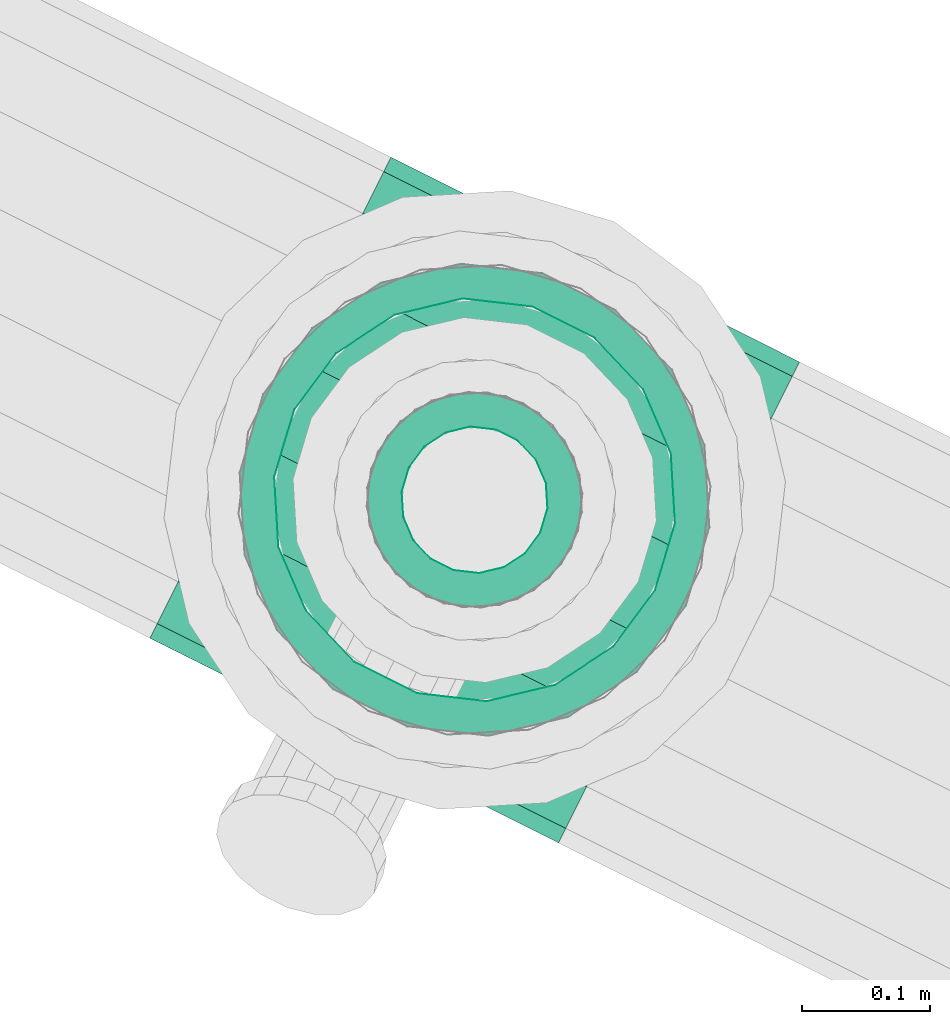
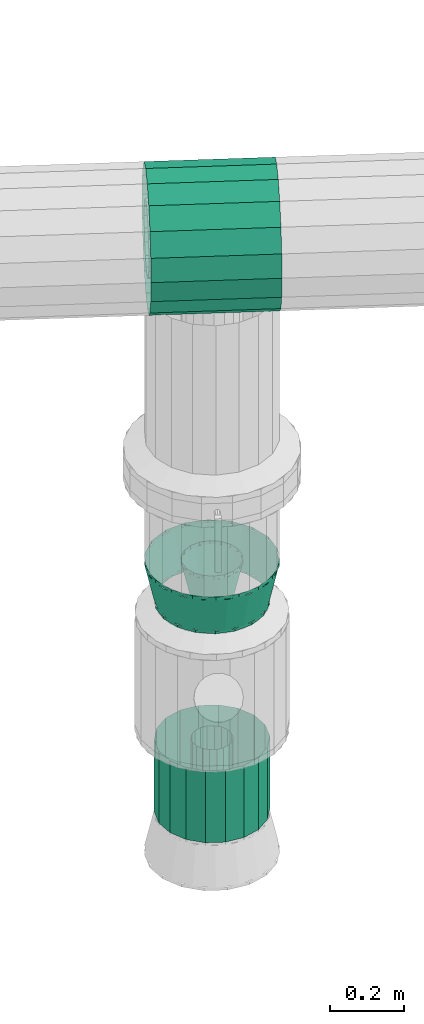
# One storey, part 59 of 152: 2 flow fittings, 1 flow segment.
"""IFC2X3 building model written with IfcOpenShell, lengths in metres."""

import ifcopenshell
import ifcopenshell.guid

model = None  # the IFC model being written
_history = None  # IfcOwnerHistory: only IFC2X3 demands one
_inside = {}  # id of a spatial element -> (the spatial element, [elements in it])
_under = {}  # id of a project, library or spatial element -> (it, [spatial elements below it])
_declared = {}  # id of a project -> (the project, [libraries it declares])
_typed = {}  # id of a type object -> (the type object, [elements of that type])
_made_of = {}  # id of a material, layer set ... -> (it, [elements and type objects made of it])


def new_model(schema):
    """Start an empty IFC model of exactly this schema.

    Asked for "IFC4X3", IfcOpenShell would pick the latest addendum, in which some entities
    have other attributes; the version numbers below select the first issue.
    IFC2X3 requires an IfcOwnerHistory on every rooted entity: one is made here for all.
    """
    global model, _history
    if schema == "IFC4X3":
        model = ifcopenshell.file(schema_version=(4, 3, 0, 0))
    else:
        model = ifcopenshell.file(schema=schema)
    _inside.clear()
    _under.clear()
    _declared.clear()
    _typed.clear()
    _made_of.clear()
    _history = None
    if model.schema == "IFC2X3":
        org = make("IfcOrganization", Name="unknown")
        user = make(
            "IfcPersonAndOrganization",
            ThePerson=make("IfcPerson", FamilyName="unknown"),
            TheOrganization=org,
        )
        app = make(
            "IfcApplication",
            ApplicationDeveloper=org,
            Version="unknown",
            ApplicationFullName="unknown",
            ApplicationIdentifier="unknown",
        )
        _history = make(
            "IfcOwnerHistory",
            OwningUser=user,
            OwningApplication=app,
            ChangeAction="ADDED",
            CreationDate=0,
        )
    return model


def make(cls, **values):
    """One entity of the class cls with the attributes given. An attribute that is None is left unset."""
    return model.create_entity(
        cls, **{name: value for name, value in values.items() if value is not None}
    )


def rooted(cls, **values):
    """An entity with a GlobalId (a new one), such as an element, a storey or a relation."""
    return make(cls, GlobalId=ifcopenshell.guid.new(), OwnerHistory=_history, **values)


def si_unit(unit_type, name, prefix=None):
    """IfcSIUnit, for example si_unit("LENGTHUNIT", "METRE", prefix="MILLI")."""
    return make("IfcSIUnit", UnitType=unit_type, Prefix=prefix, Name=name)


def derived_unit(unit_type, elements):
    """IfcDerivedUnit: a product of units, each with its exponent."""
    return make(
        "IfcDerivedUnit",
        Elements=[
            make("IfcDerivedUnitElement", Unit=unit, Exponent=power)
            for unit, power in elements
        ],
        UnitType=unit_type,
    )


def assignment(units):
    """IfcUnitAssignment: the units of a project."""
    return None if units is None else make("IfcUnitAssignment", Units=units)


def point(xyz):
    """IfcCartesianPoint."""
    return None if xyz is None else make("IfcCartesianPoint", Coordinates=xyz)


def direction(xyz):
    """IfcDirection."""
    return None if xyz is None else make("IfcDirection", DirectionRatios=xyz)


def frame(location, z_axis=None, x_axis=None):
    """IfcAxis2Placement3D, a coordinate frame: its origin and axes. An axis left out is left unset."""
    return make(
        "IfcAxis2Placement3D",
        Location=point(location),
        Axis=direction(z_axis),
        RefDirection=direction(x_axis),
    )


def origin():
    """The frame at (0, 0, 0) with its axes left unset."""
    return frame((0.0, 0.0, 0.0))


def place(relative_to, where):
    """IfcLocalPlacement: puts the frame where relative to a parent placement (None: the world)."""
    return make(
        "IfcLocalPlacement", PlacementRelTo=relative_to, RelativePlacement=where
    )


def context(
    kind, dimensions, precision=None, world=None, true_north=None, identifier=None
):
    """IfcGeometricRepresentationContext, for example the 3D "Model" context."""
    return make(
        "IfcGeometricRepresentationContext",
        ContextIdentifier=identifier,
        ContextType=kind,
        CoordinateSpaceDimension=dimensions,
        Precision=precision,
        WorldCoordinateSystem=world,
        TrueNorth=true_north,
    )


def subcontext(parent, identifier, kind, view, scale=None):
    """IfcGeometricRepresentationSubContext, for example "Body" below "Model"."""
    return make(
        "IfcGeometricRepresentationSubContext",
        ContextIdentifier=identifier,
        ContextType=kind,
        ParentContext=parent,
        TargetScale=scale,
        TargetView=view,
    )


def project(units=None, contexts=None):
    """IfcProject with its units and contexts."""
    return rooted(
        "IfcProject",
        Name="project",
        RepresentationContexts=contexts,
        UnitsInContext=assignment(units),
    )


def spatial(cls, under=None, at=None, **own):
    """A site, building, storey or space (cls), placed at a placement, below another one or the project."""
    s = rooted(cls, ObjectPlacement=at, **own)
    if under is not None:
        _under.setdefault(under.id(), (under, []))[1].append(s)
    return s


def faces_of(points, faces, orient=None, outer=None):
    """IfcFace entities. A face is a list of loops; a loop is a list of indices into points, from 0.

    orient and outer hold one flag for each loop. By default every Orientation is true, the
    first loop of a face is its IfcFaceOuterBound and the others are IfcFaceBound.
    """
    made = []
    for i, loops in enumerate(faces):
        bounds = []
        for j, loop in enumerate(loops):
            is_outer = j == 0 if outer is None else outer[i][j]
            bounds.append(
                make(
                    "IfcFaceOuterBound" if is_outer else "IfcFaceBound",
                    Bound=make("IfcPolyLoop", Polygon=[points[k] for k in loop]),
                    Orientation=True if orient is None else orient[i][j],
                )
            )
        made.append(make("IfcFace", Bounds=bounds))
    return made


def face_set(faces, orient=None, outer=None):
    """The faces of one IfcConnectedFaceSet. surface_model builds it on its shared points."""
    return ("IfcConnectedFaceSet", faces, orient, outer)


def surface_model(cls, points, shells):
    """IfcFaceBasedSurfaceModel or IfcShellBasedSurfaceModel (cls): surfaces that need not close."""
    shared = [point(p) for p in points]
    made = [make(c, CfsFaces=faces_of(shared, fs, o, b)) for c, fs, o, b in shells]
    if cls == "IfcFaceBasedSurfaceModel":
        return make(cls, FbsmFaces=made)
    return make(cls, SbsmBoundary=made)


def shape(context_of_items, identifier, shape_type, items):
    """IfcShapeRepresentation: the items that make up one representation, for example the "Body"."""
    return make(
        "IfcShapeRepresentation",
        ContextOfItems=context_of_items,
        RepresentationIdentifier=identifier,
        RepresentationType=shape_type,
        Items=items,
    )


def source(mapping_origin, context_of_items, identifier, shape_type, items):
    """IfcRepresentationMap: a shape defined once, which mapped items show again and again."""
    return make(
        "IfcRepresentationMap",
        MappingOrigin=mapping_origin,
        MappedRepresentation=shape(context_of_items, identifier, shape_type, items),
    )


def transform(
    local_origin,
    x_axis=None,
    y_axis=None,
    z_axis=None,
    scale=None,
    scale2=None,
    scale3=None,
    uniform=True,
):
    """IfcCartesianTransformationOperator3D, or its non-uniform kind. x_axis, y_axis, z_axis: its Axis1, 2, 3."""
    if uniform:
        return make(
            "IfcCartesianTransformationOperator3D",
            Axis1=direction(x_axis),
            Axis2=direction(y_axis),
            LocalOrigin=point(local_origin),
            Scale=scale,
            Axis3=direction(z_axis),
        )
    return make(
        "IfcCartesianTransformationOperator3DnonUniform",
        Axis1=direction(x_axis),
        Axis2=direction(y_axis),
        LocalOrigin=point(local_origin),
        Scale=scale,
        Axis3=direction(z_axis),
        Scale2=scale2,
        Scale3=scale3,
    )


def mapped(mapping_source, mapping_target):
    """IfcMappedItem: shows the shape of a source again, moved by a transform."""
    return make(
        "IfcMappedItem", MappingSource=mapping_source, MappingTarget=mapping_target
    )


def material(Name=None, Category=None):
    """IfcMaterial."""
    return make("IfcMaterial", Name=Name, Category=Category)


def made_of(thing, what):
    """Note that an element or type object is made of a material, layer set ...; save() writes the relation."""
    if what is not None:
        _made_of.setdefault(what.id(), (what, []))[1].append(thing)
    return thing


def type_object(cls, material=None, **own):
    """A type object (cls), such as IfcWallType, which elements share."""
    return made_of(rooted(cls, **own), material)


def type_shapes(of_type, sources):
    """Give a type object the sources (RepresentationMaps) that its elements show as mapped items."""
    of_type.RepresentationMaps = sources


def element(
    cls,
    number,
    at=None,
    inside=None,
    cuts=None,
    type_object=None,
    material=None,
    context=None,
    identifier="Body",
    shape_type=None,
    held_by="IfcProductDefinitionShape",
    body=None,
    shapes=None,
    **own,
):
    """One element of the class cls, such as IfcWall. Its Tag is "e" and its number.

    at: its placement. inside: the storey or other place that contains it. cuts: it is an
    opening in that element (IfcRelVoidsElement). A single representation is given by context,
    identifier, shape_type and body (its items); several are given by shapes. held_by: the class
    of the entity that holds the representations. save() writes the other relations.
    """
    e = rooted(cls, Tag="e%d" % number, ObjectPlacement=at, **own)
    if body is not None:
        shapes = [shape(context, identifier, shape_type, body)]
    if shapes is not None:
        e.Representation = make(held_by, Representations=shapes)
    if inside is not None:
        _inside.setdefault(inside.id(), (inside, []))[1].append(e)
    if cuts is not None:
        rooted(
            "IfcRelVoidsElement", RelatingBuildingElement=cuts, RelatedOpeningElement=e
        )
    if type_object is not None:
        _typed.setdefault(type_object.id(), (type_object, []))[1].append(e)
    return made_of(e, material)


def aggregate(whole, parts):
    """IfcRelAggregates: a whole, such as a stair, and the parts it consists of."""
    return rooted("IfcRelAggregates", RelatingObject=whole, RelatedObjects=parts)


def save(model, path):
    """Write the relations noted so far, then the file.

    IfcRelAggregates (storeys below a building ...), IfcRelContainedInSpatialStructure (elements
    in a storey), IfcRelDefinesByType, IfcRelAssociatesMaterial and IfcRelDeclares: one each for
    every whole, place, type object, material and project.
    """
    for whole, parts in _under.values():
        aggregate(whole, parts)
    for where, things in _inside.values():
        rooted(
            "IfcRelContainedInSpatialStructure",
            RelatedElements=things,
            RelatingStructure=where,
        )
    for kind, things in _typed.values():
        rooted("IfcRelDefinesByType", RelatedObjects=things, RelatingType=kind)
    for what, things in _made_of.values():
        rooted("IfcRelAssociatesMaterial", RelatedObjects=things, RelatingMaterial=what)
    for by, libraries in _declared.values():
        rooted("IfcRelDeclares", RelatingContext=by, RelatedDefinitions=libraries)
    model.write(path)


model = new_model("IFC2X3")

# Units and contexts
model_context = context("Model", 3, precision=5.2338327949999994e-05, world=origin(), true_north=direction((0.0, 1.0)))
body_context = subcontext(model_context, "Body", "Model", "MODEL_VIEW")
ifc_project = project(units=[si_unit("LENGTHUNIT", "METRE"), si_unit("AREAUNIT", "SQUARE_METRE"), si_unit("VOLUMEUNIT", "CUBIC_METRE"), si_unit("MASSUNIT", "GRAM", prefix="KILO"), si_unit("PLANEANGLEUNIT", "RADIAN"), derived_unit("THERMALTRANSMITTANCEUNIT", [(si_unit("MASSUNIT", "GRAM", prefix="KILO"), 1), (si_unit("THERMODYNAMICTEMPERATUREUNIT", "KELVIN"), -1), (si_unit("TIMEUNIT", "SECOND"), -3)])], contexts=[model_context])

# Site, building, storey
site_placement = place(None, frame((0.0, 0.0, 0.0), z_axis=(0.0, 0.0, 1.0), x_axis=(0.8939966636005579, -0.4480736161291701, 0.0)))
site = spatial("IfcSite", under=ifc_project, at=site_placement, Name="Default", CompositionType="ELEMENT")
building_placement = place(site_placement, origin())
building = spatial("IfcBuilding", under=site, at=building_placement, CompositionType="ELEMENT")
storey_placement = place(building_placement, frame((0.0, 0.0, 2.7499999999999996)))
storey = spatial("IfcBuildingStorey", under=building, at=storey_placement, Name="1. Obergeschoss", CompositionType="ELEMENT", Elevation=2.7499999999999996)

# Flow segment
ifc_material = material(Name="IfcSurfaceStyle #1741")
distribution_element_type_1 = type_object("IfcDistributionElementType", Name="Stahlrohr nach DIN 2448 614382:Stahlrohr nach DIN 2448 614382", material=ifc_material)
shared_shape_1 = source(origin(), body_context, "Body", "SurfaceModel", [
    surface_model("IfcFaceBasedSurfaceModel", [(25.382705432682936, 8.459715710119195, 3.223), (25.38615199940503, 8.440169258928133, 3.223), (25.38615199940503, 8.440169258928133, 3.461870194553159), (25.38270543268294, 8.459715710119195, 3.461870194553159), (25.396075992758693, 8.42298039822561, 3.223), (25.3960759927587, 8.42298039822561, 3.461870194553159), (25.411280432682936, 8.410222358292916, 3.223), (25.411280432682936, 8.410222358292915, 3.461870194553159), (25.42993143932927, 8.403433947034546, 3.223), (25.429931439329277, 8.403433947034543, 3.461870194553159), (25.449779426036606, 8.403433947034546, 3.223), (25.449779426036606, 8.403433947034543, 3.461870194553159), (25.468430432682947, 8.410222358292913, 3.223), (25.46843043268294, 8.410222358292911, 3.461870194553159), (25.48363487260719, 8.422980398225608, 3.223), (25.483634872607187, 8.422980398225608, 3.461870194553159), (25.493558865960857, 8.440169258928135, 3.223), (25.493558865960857, 8.440169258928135, 3.461870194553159), (25.497005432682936, 8.459715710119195, 3.223), (25.497005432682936, 8.459715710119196, 3.461870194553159), (25.49355886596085, 8.479262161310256, 3.223), (25.49355886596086, 8.479262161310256, 3.461870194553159), (25.483634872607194, 8.496451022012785, 3.223), (25.483634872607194, 8.496451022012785, 3.461870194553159), (25.468430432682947, 8.509209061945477, 3.223), (25.46843043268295, 8.509209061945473, 3.461870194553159), (25.449779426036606, 8.515997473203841, 3.223), (25.44977942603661, 8.515997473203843, 3.461870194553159), (25.429931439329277, 8.515997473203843, 3.223), (25.42993143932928, 8.515997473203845, 3.461870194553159), (25.411280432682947, 8.509209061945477, 3.223), (25.41128043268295, 8.509209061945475, 3.461870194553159), (25.396075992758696, 8.496451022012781, 3.223), (25.3960759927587, 8.496451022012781, 3.461870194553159), (25.38615199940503, 8.479262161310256, 3.223), (25.38615199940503, 8.479262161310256, 3.461870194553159), (25.282705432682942, 8.459715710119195, 3.223), (25.292182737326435, 8.405967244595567, 3.223), (25.292182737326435, 8.405967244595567, 3.461870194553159), (25.28270543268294, 8.459715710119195, 3.461870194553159), (25.319471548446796, 8.358701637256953, 3.223), (25.319471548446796, 8.358701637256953, 3.461870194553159), (25.361280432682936, 8.323619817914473, 3.223), (25.361280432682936, 8.323619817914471, 3.461870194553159), (25.41256662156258, 8.304953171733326, 3.223), (25.41256662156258, 8.304953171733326, 3.461870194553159), (25.467144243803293, 8.304953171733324, 3.223), (25.467144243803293, 8.304953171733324, 3.461870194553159), (25.518430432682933, 8.32361981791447, 3.223), (25.518430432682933, 8.32361981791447, 3.461870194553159), (25.56023931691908, 8.358701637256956, 3.223), (25.56023931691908, 8.358701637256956, 3.461870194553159), (25.587528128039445, 8.405967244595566, 3.223), (25.587528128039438, 8.405967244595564, 3.461870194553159), (25.597005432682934, 8.459715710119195, 3.223), (25.597005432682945, 8.459715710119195, 3.461870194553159), (25.587528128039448, 8.513464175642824, 3.223), (25.587528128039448, 8.513464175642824, 3.461870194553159), (25.560239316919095, 8.560729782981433, 3.223), (25.560239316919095, 8.560729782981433, 3.461870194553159), (25.51843043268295, 8.59581160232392, 3.223), (25.51843043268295, 8.59581160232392, 3.461870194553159), (25.46714424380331, 8.614478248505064, 3.223), (25.467144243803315, 8.614478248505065, 3.461870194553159), (25.412566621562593, 8.614478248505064, 3.223), (25.412566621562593, 8.614478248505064, 3.461870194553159), (25.361280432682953, 8.595811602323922, 3.223), (25.361280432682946, 8.59581160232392, 3.461870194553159), (25.3194715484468, 8.560729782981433, 3.223), (25.3194715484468, 8.560729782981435, 3.461870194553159), (25.29218273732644, 8.513464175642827, 3.223), (25.292182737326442, 8.513464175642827, 3.461870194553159)], [face_set([[[0, 1, 2, 3]], [[1, 4, 5, 2]], [[4, 6, 7, 5]], [[6, 8, 9, 7]], [[8, 10, 11, 9]], [[10, 12, 13, 11]], [[12, 14, 15, 13]], [[14, 16, 17, 15]], [[16, 18, 19, 17]], [[18, 20, 21, 19]], [[20, 22, 23, 21]], [[22, 24, 25, 23]], [[24, 26, 27, 25]], [[26, 28, 29, 27]], [[28, 30, 31, 29]], [[30, 32, 33, 31]], [[32, 34, 35, 33]], [[34, 0, 3, 35]], [[36, 37, 38, 39]], [[37, 40, 41, 38]], [[40, 42, 43, 41]], [[42, 44, 45, 43]], [[44, 46, 47, 45]], [[46, 48, 49, 47]], [[48, 50, 51, 49]], [[50, 52, 53, 51]], [[52, 54, 55, 53]], [[54, 56, 57, 55]], [[56, 58, 59, 57]], [[58, 60, 61, 59]], [[60, 62, 63, 61]], [[62, 64, 65, 63]], [[64, 66, 67, 65]], [[66, 68, 69, 67]], [[68, 70, 71, 69]], [[70, 36, 39, 71]]])]),
])
type_shapes(distribution_element_type_1, [shared_shape_1])
flow_segment_placement = place(storey_placement, frame((0.0, 0.0, -2.7499999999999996)))
element("IfcFlowSegment", 1, at=flow_segment_placement, inside=storey, type_object=distribution_element_type_1, material=ifc_material, Name="Stahlrohr nach DIN 2448", ObjectType="Stahlrohr nach DIN 2448", context=body_context, shape_type="MappedRepresentation", body=[
    mapped(shared_shape_1, transform((0.0, 0.0, 0.0), scale=1.0)),
])

# Flow fittings
distribution_element_type_2 = type_object("IfcDistributionElementType", Name="Übergangsstück 614405:Übergangsstück 614405", material=ifc_material)
shared_shape_2 = source(origin(), body_context, "Body", "SurfaceModel", [
    surface_model("IfcFaceBasedSurfaceModel", [(25.43985543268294, 8.402565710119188, 3.915870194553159), (25.459401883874, 8.406012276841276, 3.915870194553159), (25.459401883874, 8.406012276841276, 3.924489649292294), (25.43985543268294, 8.402565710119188, 3.924489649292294), (25.47659074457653, 8.415936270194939, 3.915870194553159), (25.47659074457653, 8.415936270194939, 3.924489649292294), (25.489348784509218, 8.431140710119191, 3.915870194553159), (25.489348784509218, 8.431140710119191, 3.924489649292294), (25.496137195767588, 8.449791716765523, 3.915870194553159), (25.496137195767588, 8.449791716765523, 3.924489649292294), (25.496137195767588, 8.469639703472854, 3.915870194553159), (25.496137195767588, 8.469639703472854, 3.924489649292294), (25.489348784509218, 8.48829071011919, 3.915870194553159), (25.489348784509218, 8.48829071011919, 3.924489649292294), (25.476590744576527, 8.50349515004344, 3.915870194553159), (25.476590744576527, 8.50349515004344, 3.924489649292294), (25.459401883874, 8.513419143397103, 3.915870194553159), (25.459401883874, 8.513419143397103, 3.924489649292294), (25.43985543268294, 8.516865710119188, 3.915870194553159), (25.43985543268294, 8.516865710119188, 3.924489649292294), (25.42030898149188, 8.513419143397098, 3.915870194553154), (25.42030898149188, 8.513419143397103, 3.9244896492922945), (25.403120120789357, 8.503495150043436, 3.9158701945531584), (25.403120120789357, 8.503495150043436, 3.9244896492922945), (25.390362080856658, 8.488290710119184, 3.915870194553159), (25.390362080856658, 8.488290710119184, 3.924489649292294), (25.383573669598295, 8.469639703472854, 3.915870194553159), (25.383573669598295, 8.469639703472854, 3.924489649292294), (25.383573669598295, 8.44979171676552, 3.915870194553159), (25.383573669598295, 8.44979171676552, 3.924489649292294), (25.390362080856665, 8.431140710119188, 3.915870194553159), (25.390362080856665, 8.431140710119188, 3.924489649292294), (25.403120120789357, 8.415936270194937, 3.915870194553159), (25.403120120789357, 8.415936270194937, 3.924489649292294), (25.42030898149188, 8.406012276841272, 3.915870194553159), (25.42030898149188, 8.406012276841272, 3.924489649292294), (25.43985543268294, 8.302565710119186, 3.915870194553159), (25.493603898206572, 8.312043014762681, 3.915870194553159), (25.493603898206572, 8.312043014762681, 3.924489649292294), (25.439855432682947, 8.302565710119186, 3.924489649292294), (25.540869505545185, 8.33933182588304, 3.915870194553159), (25.540869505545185, 8.33933182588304, 3.924489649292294), (25.575951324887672, 8.381140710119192, 3.915870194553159), (25.575951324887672, 8.381140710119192, 3.924489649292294), (25.594617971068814, 8.432426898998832, 3.915870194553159), (25.594617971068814, 8.432426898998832, 3.924489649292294), (25.594617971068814, 8.48700452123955, 3.915870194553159), (25.594617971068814, 8.48700452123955, 3.924489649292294), (25.57595132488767, 8.538290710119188, 3.915870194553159), (25.57595132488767, 8.538290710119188, 3.924489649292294), (25.54086950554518, 8.580099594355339, 3.915870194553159), (25.54086950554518, 8.580099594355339, 3.924489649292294), (25.493603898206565, 8.607388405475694, 3.915870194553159), (25.493603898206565, 8.607388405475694, 3.924489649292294), (25.439855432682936, 8.616865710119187, 3.915870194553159), (25.439855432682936, 8.616865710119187, 3.924489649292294), (25.386106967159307, 8.607388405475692, 3.915870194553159), (25.386106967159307, 8.607388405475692, 3.924489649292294), (25.338841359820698, 8.580099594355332, 3.915870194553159), (25.338841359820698, 8.580099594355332, 3.924489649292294), (25.303759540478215, 8.538290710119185, 3.915870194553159), (25.303759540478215, 8.538290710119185, 3.924489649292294), (25.285092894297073, 8.487004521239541, 3.915870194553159), (25.285092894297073, 8.487004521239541, 3.924489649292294), (25.285092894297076, 8.432426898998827, 3.915870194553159), (25.285092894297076, 8.432426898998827, 3.924489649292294), (25.303759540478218, 8.381140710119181, 3.915870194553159), (25.303759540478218, 8.381140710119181, 3.924489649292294), (25.338841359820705, 8.33933182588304, 3.915870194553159), (25.338841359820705, 8.33933182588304, 3.924489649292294), (25.386106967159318, 8.312043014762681, 3.915870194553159), (25.386106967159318, 8.312043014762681, 3.924489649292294), (25.49700543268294, 8.45971571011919, 3.924489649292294), (25.493558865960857, 8.47926216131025, 3.924489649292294), (25.518930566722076, 8.488496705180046, 4.045410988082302), (25.524005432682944, 8.45971571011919, 4.0454109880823), (25.483634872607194, 8.496451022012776, 3.9244896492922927), (25.5043180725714, 8.513806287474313, 4.045410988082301), (25.468430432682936, 8.509209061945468, 3.924489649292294), (25.481930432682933, 8.532591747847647, 4.045410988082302), (25.449779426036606, 8.515997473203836, 3.924489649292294), (25.454467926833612, 8.542587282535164, 4.045410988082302), (25.429931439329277, 8.515997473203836, 3.924489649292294), (25.42524293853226, 8.542587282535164, 4.045410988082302), (25.41128043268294, 8.509209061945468, 3.924489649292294), (25.397780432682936, 8.532591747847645, 4.045410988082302), (25.396075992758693, 8.496451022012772, 3.924489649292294), (25.375392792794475, 8.513806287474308, 4.045410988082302), (25.386151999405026, 8.479262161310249, 3.924489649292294), (25.3607802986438, 8.488496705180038, 4.045410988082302), (25.382705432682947, 8.459715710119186, 3.9244896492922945), (25.35570543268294, 8.459715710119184, 4.045410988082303), (25.386151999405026, 8.440169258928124, 3.924489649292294), (25.360780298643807, 8.430934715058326, 4.045410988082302), (25.396075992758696, 8.4229803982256, 3.924489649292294), (25.37539279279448, 8.40562513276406, 4.045410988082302), (25.41128043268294, 8.410222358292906, 3.924489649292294), (25.397780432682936, 8.386839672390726, 4.045410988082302), (25.42993143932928, 8.40343394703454, 3.924489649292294), (25.425242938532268, 8.37684413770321, 4.045410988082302), (25.449779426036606, 8.403433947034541, 3.924489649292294), (25.454467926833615, 8.37684413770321, 4.045410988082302), (25.468430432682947, 8.410222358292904, 3.9244896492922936), (25.481930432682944, 8.386839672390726, 4.045410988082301), (25.483634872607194, 8.422980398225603, 3.924489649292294), (25.5043180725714, 8.405625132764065, 4.045410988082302), (25.493558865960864, 8.440169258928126, 3.924489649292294), (25.518930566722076, 8.43093471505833, 4.045410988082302), (25.439855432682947, 8.375565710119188, 4.0454109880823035), (25.468636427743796, 8.380640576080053, 4.0454109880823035), (25.468636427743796, 8.380640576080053, 4.055870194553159), (25.439855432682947, 8.375565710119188, 4.055870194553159), (25.493946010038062, 8.395253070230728, 4.0454109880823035), (25.493946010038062, 8.395253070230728, 4.055870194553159), (25.5127314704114, 8.417640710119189, 4.0454109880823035), (25.5127314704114, 8.417640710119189, 4.055870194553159), (25.522727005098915, 8.445103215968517, 4.0454109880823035), (25.522727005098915, 8.445103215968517, 4.055870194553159), (25.522727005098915, 8.474328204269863, 4.0454109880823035), (25.522727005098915, 8.474328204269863, 4.055870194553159), (25.5127314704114, 8.50179071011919, 4.0454109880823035), (25.5127314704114, 8.50179071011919, 4.055870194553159), (25.49394601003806, 8.524178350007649, 4.0454109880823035), (25.49394601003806, 8.524178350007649, 4.055870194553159), (25.468636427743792, 8.538790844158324, 4.0454109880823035), (25.468636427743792, 8.538790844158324, 4.055870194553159), (25.439855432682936, 8.543865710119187, 4.0454109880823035), (25.439855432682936, 8.543865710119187, 4.055870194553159), (25.411074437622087, 8.53879084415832, 4.0454109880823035), (25.411074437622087, 8.53879084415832, 4.055870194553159), (25.38576485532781, 8.524178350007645, 4.0454109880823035), (25.38576485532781, 8.524178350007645, 4.055870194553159), (25.366979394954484, 8.501790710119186, 4.0454109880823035), (25.366979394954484, 8.501790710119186, 4.055870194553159), (25.35698386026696, 8.474328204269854, 4.0454109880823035), (25.35698386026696, 8.474328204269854, 4.055870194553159), (25.35698386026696, 8.445103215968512, 4.0454109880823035), (25.35698386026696, 8.445103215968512, 4.055870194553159), (25.366979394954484, 8.417640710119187, 4.0454109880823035), (25.366979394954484, 8.417640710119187, 4.055870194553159), (25.38576485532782, 8.395253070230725, 4.0454109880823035), (25.38576485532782, 8.395253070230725, 4.055870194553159), (25.41107443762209, 8.38064057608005, 4.0454109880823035), (25.41107443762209, 8.38064057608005, 4.055870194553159), (25.59700543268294, 8.45971571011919, 3.9244896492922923), (25.587528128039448, 8.51346417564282, 3.9244896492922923), (25.61289982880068, 8.522698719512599, 4.045410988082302), (25.624005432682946, 8.459715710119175, 4.045410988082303), (25.560239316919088, 8.56072978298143, 3.924489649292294), (25.58092251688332, 8.578085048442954, 4.045410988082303), (25.518430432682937, 8.59581160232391, 3.9244896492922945), (25.53193043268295, 8.619194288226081, 4.0454109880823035), (25.467144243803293, 8.614478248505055, 3.9244896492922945), (25.471832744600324, 8.641068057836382, 4.0454109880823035), (25.41256662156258, 8.614478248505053, 3.924489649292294), (25.407878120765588, 8.641068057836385, 4.045410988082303), (25.36128043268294, 8.59581160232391, 3.924489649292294), (25.34778043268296, 8.619194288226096, 4.045410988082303), (25.3194715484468, 8.560729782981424, 3.924489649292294), (25.298788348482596, 8.578085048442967, 4.045410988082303), (25.29218273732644, 8.513464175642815, 3.924489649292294), (25.266811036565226, 8.522698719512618, 4.045410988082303), (25.282705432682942, 8.459715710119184, 3.924489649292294), (25.255705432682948, 8.459715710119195, 4.045410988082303), (25.29218273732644, 8.405967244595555, 3.924489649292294), (25.266811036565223, 8.396732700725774, 4.045410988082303), (25.3194715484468, 8.358701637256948, 3.924489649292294), (25.298788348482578, 8.341346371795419, 4.045410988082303), (25.361280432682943, 8.323619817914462, 3.924489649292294), (25.347780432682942, 8.300237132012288, 4.045410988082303), (25.41256662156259, 8.304953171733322, 3.924489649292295), (25.407878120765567, 8.278363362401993, 4.0454109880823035), (25.467144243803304, 8.304953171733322, 3.924489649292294), (25.471832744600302, 8.278363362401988, 4.045410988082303), (25.51843043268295, 8.323619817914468, 3.9244896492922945), (25.53193043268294, 8.30023713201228, 4.0454109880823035), (25.56023931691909, 8.358701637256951, 3.9244896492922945), (25.5809225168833, 8.341346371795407, 4.0454109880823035), (25.587528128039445, 8.405967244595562, 3.924489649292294), (25.612899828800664, 8.396732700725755, 4.045410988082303), (25.439855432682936, 8.275565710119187, 4.0454109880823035), (25.502838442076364, 8.286671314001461, 4.0454109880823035), (25.502838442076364, 8.286671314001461, 4.055870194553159), (25.439855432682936, 8.275565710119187, 4.055870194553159), (25.558224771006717, 8.318648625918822, 4.0454109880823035), (25.558224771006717, 8.318648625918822, 4.055870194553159), (25.599334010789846, 8.367640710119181, 4.0454109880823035), (25.599334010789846, 8.367640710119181, 4.055870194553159), (25.621207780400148, 8.427738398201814, 4.0454109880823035), (25.621207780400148, 8.427738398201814, 4.055870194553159), (25.621207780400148, 8.491693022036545, 4.0454109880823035), (25.621207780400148, 8.491693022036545, 4.055870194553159), (25.599334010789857, 8.551790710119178, 4.0454109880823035), (25.599334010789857, 8.551790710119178, 4.055870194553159), (25.558224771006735, 8.600782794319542, 4.0454109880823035), (25.558224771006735, 8.600782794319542, 4.055870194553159), (25.50283844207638, 8.632760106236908, 4.0454109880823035), (25.50283844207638, 8.632760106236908, 4.055870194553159), (25.439855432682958, 8.64386571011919, 4.0454109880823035), (25.439855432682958, 8.64386571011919, 4.055870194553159), (25.376872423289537, 8.632760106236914, 4.0454109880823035), (25.376872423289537, 8.632760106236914, 4.055870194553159), (25.321486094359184, 8.600782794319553, 4.0454109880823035), (25.321486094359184, 8.600782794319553, 4.055870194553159), (25.280376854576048, 8.551790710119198, 4.0454109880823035), (25.280376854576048, 8.551790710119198, 4.055870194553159), (25.258503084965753, 8.491693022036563, 4.0454109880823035), (25.258503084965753, 8.491693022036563, 4.055870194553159), (25.258503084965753, 8.42773839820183, 4.0454109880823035), (25.258503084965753, 8.42773839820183, 4.055870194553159), (25.280376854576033, 8.367640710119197, 4.0454109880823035), (25.280376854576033, 8.367640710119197, 4.055870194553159), (25.32148609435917, 8.318648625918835, 4.0454109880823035), (25.32148609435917, 8.318648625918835, 4.055870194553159), (25.376872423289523, 8.286671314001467, 4.0454109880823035), (25.376872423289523, 8.286671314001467, 4.055870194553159)], [face_set([[[0, 1, 2, 3]], [[1, 4, 5, 2]], [[4, 6, 7, 5]], [[6, 8, 9, 7]], [[8, 10, 11, 9]], [[10, 12, 13, 11]], [[12, 14, 15, 13]], [[14, 16, 17, 15]], [[16, 18, 19, 17]], [[18, 20, 21, 19]], [[20, 22, 23, 21]], [[22, 24, 25, 23]], [[24, 26, 27, 25]], [[26, 28, 29, 27]], [[28, 30, 31, 29]], [[30, 32, 33, 31]], [[32, 34, 35, 33]], [[34, 0, 3, 35]], [[36, 37, 38, 39]], [[37, 40, 41, 38]], [[40, 42, 43, 41]], [[42, 44, 45, 43]], [[44, 46, 47, 45]], [[46, 48, 49, 47]], [[48, 50, 51, 49]], [[50, 52, 53, 51]], [[52, 54, 55, 53]], [[54, 56, 57, 55]], [[56, 58, 59, 57]], [[58, 60, 61, 59]], [[60, 62, 63, 61]], [[62, 64, 65, 63]], [[64, 66, 67, 65]], [[66, 68, 69, 67]], [[68, 70, 71, 69]], [[70, 36, 39, 71]], [[72, 73, 74, 75]], [[73, 76, 77, 74]], [[76, 78, 79, 77]], [[78, 80, 81, 79]], [[80, 82, 83, 81]], [[82, 84, 85, 83]], [[84, 86, 87, 85]], [[86, 88, 89, 87]], [[88, 90, 91, 89]], [[90, 92, 93, 91]], [[92, 94, 95, 93]], [[94, 96, 97, 95]], [[96, 98, 99, 97]], [[98, 100, 101, 99]], [[100, 102, 103, 101]], [[102, 104, 105, 103]], [[104, 106, 107, 105]], [[106, 72, 75, 107]], [[108, 109, 110, 111]], [[109, 112, 113, 110]], [[112, 114, 115, 113]], [[114, 116, 117, 115]], [[116, 118, 119, 117]], [[118, 120, 121, 119]], [[120, 122, 123, 121]], [[122, 124, 125, 123]], [[124, 126, 127, 125]], [[126, 128, 129, 127]], [[128, 130, 131, 129]], [[130, 132, 133, 131]], [[132, 134, 135, 133]], [[134, 136, 137, 135]], [[136, 138, 139, 137]], [[138, 140, 141, 139]], [[140, 142, 143, 141]], [[142, 108, 111, 143]], [[144, 145, 146, 147]], [[145, 148, 149, 146]], [[148, 150, 151, 149]], [[150, 152, 153, 151]], [[152, 154, 155, 153]], [[154, 156, 157, 155]], [[156, 158, 159, 157]], [[158, 160, 161, 159]], [[160, 162, 163, 161]], [[162, 164, 165, 163]], [[164, 166, 167, 165]], [[166, 168, 169, 167]], [[168, 170, 171, 169]], [[170, 172, 173, 171]], [[172, 174, 175, 173]], [[174, 176, 177, 175]], [[176, 178, 179, 177]], [[178, 144, 147, 179]], [[180, 181, 182, 183]], [[181, 184, 185, 182]], [[184, 186, 187, 185]], [[186, 188, 189, 187]], [[188, 190, 191, 189]], [[190, 192, 193, 191]], [[192, 194, 195, 193]], [[194, 196, 197, 195]], [[196, 198, 199, 197]], [[198, 200, 201, 199]], [[200, 202, 203, 201]], [[202, 204, 205, 203]], [[204, 206, 207, 205]], [[206, 208, 209, 207]], [[208, 210, 211, 209]], [[210, 212, 213, 211]], [[212, 214, 215, 213]], [[214, 180, 183, 215]]])]),
])
type_shapes(distribution_element_type_2, [shared_shape_2])
flow_fitting_1_placement = place(storey_placement, frame((0.0, 0.0, -2.7499999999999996)))
element("IfcFlowFitting", 2, at=flow_fitting_1_placement, inside=storey, type_object=distribution_element_type_2, material=ifc_material, Name="Übergangsstück", ObjectType="Übergangsstück", context=body_context, shape_type="MappedRepresentation", body=[
    mapped(shared_shape_2, transform((0.0, 0.0, 0.0), scale=1.0)),
])
distribution_element_type_3 = type_object("IfcDistributionElementType", Name="Abzweigstück 614428:Abzweigstück 614428", material=ifc_material)
shared_shape_3 = source(origin(), body_context, "Body", "SurfaceModel", [
    surface_model("IfcFaceBasedSurfaceModel", [(25.261855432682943, 8.569265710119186, 5.122997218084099), (25.261855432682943, 8.562659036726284, 5.160465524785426), (25.617855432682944, 8.562659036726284, 5.160465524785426), (25.617855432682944, 8.569265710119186, 5.122997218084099), (25.261855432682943, 8.543635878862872, 5.1934146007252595), (25.617855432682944, 8.543635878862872, 5.1934146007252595), (25.261855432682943, 8.514490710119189, 5.217870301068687), (25.617855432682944, 8.514490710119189, 5.217870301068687), (25.261855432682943, 8.478738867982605, 5.230882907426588), (25.617855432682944, 8.478738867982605, 5.230882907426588), (25.261855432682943, 8.440692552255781, 5.230882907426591), (25.617855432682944, 8.440692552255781, 5.230882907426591), (25.261855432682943, 8.40494071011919, 5.217870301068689), (25.617855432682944, 8.40494071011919, 5.217870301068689), (25.261855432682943, 8.375795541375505, 5.193414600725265), (25.617855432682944, 8.375795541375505, 5.193414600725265), (25.261855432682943, 8.356772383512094, 5.160465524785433), (25.617855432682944, 8.356772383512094, 5.160465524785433), (25.261855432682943, 8.350165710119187, 5.122997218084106), (25.617855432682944, 8.350165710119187, 5.122997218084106), (25.261855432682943, 8.35677238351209, 5.085528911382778), (25.617855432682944, 8.35677238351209, 5.085528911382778), (25.261855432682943, 8.3757955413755, 5.052579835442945), (25.617855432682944, 8.3757955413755, 5.052579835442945), (25.261855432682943, 8.404940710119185, 5.028124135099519), (25.617855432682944, 8.404940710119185, 5.028124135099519), (25.261855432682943, 8.440692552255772, 5.015111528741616), (25.617855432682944, 8.440692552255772, 5.015111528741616), (25.261855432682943, 8.478738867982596, 5.015111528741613), (25.617855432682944, 8.478738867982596, 5.015111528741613), (25.261855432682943, 8.514490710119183, 5.028124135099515), (25.617855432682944, 8.514490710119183, 5.028124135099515), (25.261855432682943, 8.543635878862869, 5.0525798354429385), (25.617855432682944, 8.543635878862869, 5.0525798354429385), (25.261855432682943, 8.56265903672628, 5.085528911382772), (25.617855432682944, 8.56265903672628, 5.085528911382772), (25.52400543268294, 8.459715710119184, 5.013447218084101), (25.518930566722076, 8.430934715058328, 5.017295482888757), (25.51893056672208, 8.430934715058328, 4.954997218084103), (25.52400543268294, 8.45971571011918, 4.954997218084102), (25.5043180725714, 8.40562513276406, 5.027732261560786), (25.5043180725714, 8.40562513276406, 4.954997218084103), (25.481930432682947, 8.386839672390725, 5.041203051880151), (25.481930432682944, 8.38683967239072, 4.954997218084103), (25.454467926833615, 8.376844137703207, 5.0513487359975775), (25.454467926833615, 8.376844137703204, 4.954997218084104), (25.42524293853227, 8.376844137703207, 5.0513487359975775), (25.42524293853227, 8.376844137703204, 4.954997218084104), (25.39778043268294, 8.386839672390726, 5.041203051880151), (25.39778043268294, 8.386839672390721, 4.954997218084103), (25.375392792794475, 8.40562513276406, 5.027732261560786), (25.375392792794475, 8.40562513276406, 4.954997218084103), (25.36078029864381, 8.430934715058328, 5.017295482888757), (25.36078029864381, 8.430934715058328, 4.954997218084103), (25.355705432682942, 8.459715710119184, 5.013447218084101), (25.355705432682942, 8.459715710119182, 4.954997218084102), (25.36078029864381, 8.488496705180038, 5.017295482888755), (25.36078029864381, 8.488496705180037, 4.954997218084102), (25.375392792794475, 8.513806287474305, 5.027732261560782), (25.375392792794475, 8.513806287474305, 4.9549972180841), (25.39778043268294, 8.532591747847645, 5.041203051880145), (25.39778043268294, 8.532591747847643, 4.954997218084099), (25.42524293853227, 8.542587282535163, 5.051348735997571), (25.42524293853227, 8.542587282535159, 4.954997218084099), (25.454467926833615, 8.542587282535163, 5.051348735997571), (25.454467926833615, 8.542587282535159, 4.954997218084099), (25.481930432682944, 8.532591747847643, 5.041203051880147), (25.481930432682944, 8.532591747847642, 4.954997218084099), (25.5043180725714, 8.513806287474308, 5.027732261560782), (25.5043180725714, 8.513806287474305, 4.9549972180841), (25.518930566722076, 8.488496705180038, 5.017295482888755), (25.518930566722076, 8.488496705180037, 4.954997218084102), (25.261855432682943, 8.669265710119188, 5.1229972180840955), (25.261855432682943, 8.656628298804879, 5.194667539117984), (25.617855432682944, 8.656628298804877, 5.194667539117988), (25.617855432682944, 8.669265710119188, 5.1229972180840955), (25.261855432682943, 8.620240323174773, 5.25769336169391), (25.617855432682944, 8.620240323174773, 5.25769336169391), (25.261855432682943, 8.564490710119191, 5.3044728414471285), (25.617855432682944, 8.564490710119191, 5.3044728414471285), (25.261855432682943, 8.4961036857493, 5.329363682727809), (25.617855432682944, 8.4961036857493, 5.329363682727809), (25.261855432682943, 8.423327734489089, 5.329363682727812), (25.617855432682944, 8.423327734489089, 5.329363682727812), (25.261855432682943, 8.354940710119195, 5.304472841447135), (25.617855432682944, 8.354940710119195, 5.304472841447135), (25.261855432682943, 8.29919109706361, 5.2576933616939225), (25.617855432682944, 8.29919109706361, 5.2576933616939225), (25.261855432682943, 8.262803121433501, 5.194667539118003), (25.617855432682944, 8.262803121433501, 5.194667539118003), (25.261855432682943, 8.25016571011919, 5.122997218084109), (25.617855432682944, 8.25016571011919, 5.122997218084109), (25.261855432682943, 8.262803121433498, 5.051326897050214), (25.617855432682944, 8.262803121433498, 5.051326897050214), (25.261855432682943, 8.299191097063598, 4.988301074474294), (25.617855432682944, 8.299191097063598, 4.988301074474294), (25.261855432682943, 8.354940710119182, 4.941521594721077), (25.617855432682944, 8.354940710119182, 4.941521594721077), (25.261855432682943, 8.423327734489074, 4.916630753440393), (25.617855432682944, 8.423327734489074, 4.916630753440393), (25.261855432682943, 8.496103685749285, 4.916630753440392), (25.617855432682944, 8.496103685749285, 4.916630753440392), (25.261855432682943, 8.56449071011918, 4.941521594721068), (25.617855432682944, 8.56449071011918, 4.941521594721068), (25.261855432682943, 8.620240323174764, 4.988301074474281), (25.617855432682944, 8.620240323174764, 4.988301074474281), (25.261855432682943, 8.65662829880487, 5.051326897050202), (25.617855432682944, 8.65662829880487, 5.051326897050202)], [face_set([[[0, 1, 2, 3]], [[1, 4, 5, 2]], [[4, 6, 7, 5]], [[6, 8, 9, 7]], [[8, 10, 11, 9]], [[10, 12, 13, 11]], [[12, 14, 15, 13]], [[14, 16, 17, 15]], [[16, 18, 19, 17]], [[18, 20, 21, 19]], [[20, 22, 23, 21]], [[22, 24, 25, 23]], [[24, 26, 27, 25]], [[26, 28, 29, 27]], [[28, 30, 31, 29]], [[30, 32, 33, 31]], [[32, 34, 35, 33]], [[34, 0, 3, 35]], [[36, 37, 38, 39]], [[37, 40, 41, 38]], [[40, 42, 43, 41]], [[42, 44, 45, 43]], [[44, 46, 47, 45]], [[46, 48, 49, 47]], [[48, 50, 51, 49]], [[50, 52, 53, 51]], [[52, 54, 55, 53]], [[54, 56, 57, 55]], [[56, 58, 59, 57]], [[58, 60, 61, 59]], [[60, 62, 63, 61]], [[62, 64, 65, 63]], [[64, 66, 67, 65]], [[66, 68, 69, 67]], [[68, 70, 71, 69]], [[70, 36, 39, 71]], [[72, 73, 74, 75]], [[73, 76, 77, 74]], [[76, 78, 79, 77]], [[78, 80, 81, 79]], [[80, 82, 83, 81]], [[82, 84, 85, 83]], [[84, 86, 87, 85]], [[86, 88, 89, 87]], [[88, 90, 91, 89]], [[90, 92, 93, 91]], [[92, 94, 95, 93]], [[94, 96, 97, 95]], [[96, 98, 99, 97]], [[98, 100, 101, 99]], [[100, 102, 103, 101]], [[102, 104, 105, 103]], [[104, 106, 107, 105]], [[106, 72, 75, 107]]])]),
])
type_shapes(distribution_element_type_3, [shared_shape_3])
flow_fitting_2_placement = place(storey_placement, frame((0.0, 0.0, -2.7499999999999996)))
element("IfcFlowFitting", 3, at=flow_fitting_2_placement, inside=storey, type_object=distribution_element_type_3, material=ifc_material, Name="Abzweigstück", ObjectType="Abzweigstück", context=body_context, shape_type="MappedRepresentation", body=[
    mapped(shared_shape_3, transform((0.0, 0.0, 0.0), scale=1.0)),
])

save(model, "model.ifc")
